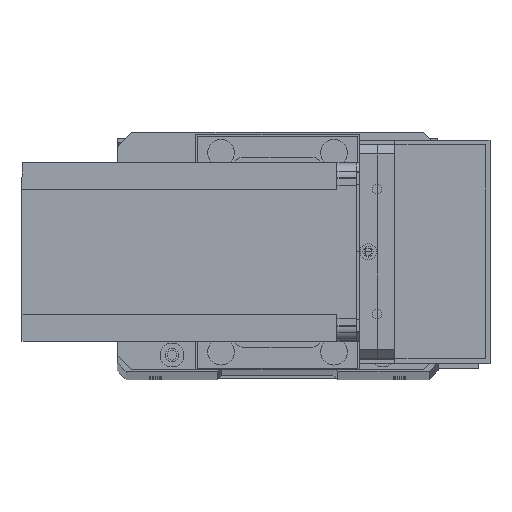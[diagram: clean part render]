
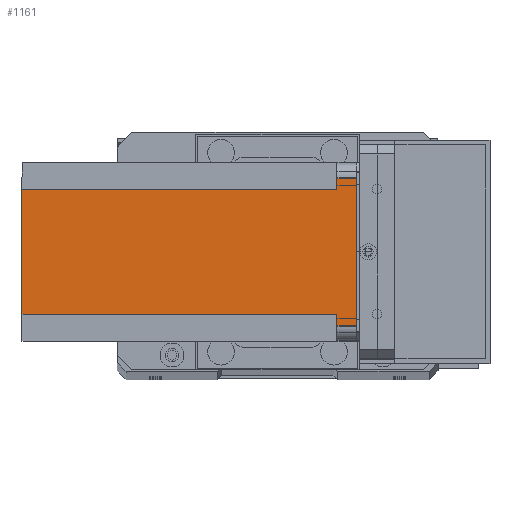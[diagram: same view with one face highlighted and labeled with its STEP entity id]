
A CAD part, top view. The second image highlights one B-rep face of the part: STEP entity #1161.
In plain terms, the highlighted planar face has unit normal (0, 0, 1) as drawn and (1, 0, 0) by its records, which use the part's own axes.
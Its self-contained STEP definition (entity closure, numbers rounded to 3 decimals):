
#263 = VECTOR ( 'NONE', #18412, 1000. ) ;
#317 = DIRECTION ( 'NONE',  ( 0., 0., -1. ) ) ;
#457 = VERTEX_POINT ( 'NONE', #5926 ) ;
#571 = VERTEX_POINT ( 'NONE', #18770 ) ;
#1040 = LINE ( 'NONE', #28239, #263 ) ;
#1161 = ADVANCED_FACE ( 'NONE', ( #13507 ), #14462, .T. ) ;
#1623 = LINE ( 'NONE', #3838, #8167 ) ;
#3256 = CARTESIAN_POINT ( 'NONE',  ( 60., 0., -6.5 ) ) ;
#3838 = CARTESIAN_POINT ( 'NONE',  ( 60., 0., -112.5 ) ) ;
#3859 = ORIENTED_EDGE ( 'NONE', *, *, #30496, .T. ) ;
#5535 = CARTESIAN_POINT ( 'NONE',  ( 60., 9., -6.5 ) ) ;
#5699 = VECTOR ( 'NONE', #29413, 1000. ) ;
#5708 = DIRECTION ( 'NONE',  ( 0., -1., 0. ) ) ;
#5926 = CARTESIAN_POINT ( 'NONE',  ( 60., 5., -6.5 ) ) ;
#6035 = EDGE_CURVE ( 'NONE', #27380, #11316, #19549, .T. ) ;
#6162 = EDGE_CURVE ( 'NONE', #571, #31804, #9903, .T. ) ;
#6300 = ORIENTED_EDGE ( 'NONE', *, *, #6162, .F. ) ;
#7431 = VERTEX_POINT ( 'NONE', #29124 ) ;
#8122 = EDGE_CURVE ( 'NONE', #11316, #7431, #25426, .T. ) ;
#8167 = VECTOR ( 'NONE', #11211, 1000. ) ;
#9648 = ORIENTED_EDGE ( 'NONE', *, *, #8122, .F. ) ;
#9903 = LINE ( 'NONE', #28953, #22240 ) ;
#9926 = DIRECTION ( 'NONE',  ( 0., 1., 0. ) ) ;
#10061 = VECTOR ( 'NONE', #5708, 1000. ) ;
#10722 = ORIENTED_EDGE ( 'NONE', *, *, #18747, .F. ) ;
#11211 = DIRECTION ( 'NONE',  ( 0., 1., 0. ) ) ;
#11316 = VERTEX_POINT ( 'NONE', #28946 ) ;
#12462 = VECTOR ( 'NONE', #9926, 1000. ) ;
#13015 = VECTOR ( 'NONE', #23449, 1000. ) ;
#13171 = LINE ( 'NONE', #29843, #18928 ) ;
#13507 = FACE_OUTER_BOUND ( 'NONE', #26702, .T. ) ;
#13549 = CARTESIAN_POINT ( 'NONE',  ( 60., 60., -6.5 ) ) ;
#14462 = PLANE ( 'NONE',  #25810 ) ;
#15098 = ORIENTED_EDGE ( 'NONE', *, *, #22863, .T. ) ;
#16610 = LINE ( 'NONE', #3256, #10061 ) ;
#16643 = DIRECTION ( 'NONE',  ( 0., 0., 1. ) ) ;
#16916 = DIRECTION ( 'NONE',  ( 0., 1., 0. ) ) ;
#18412 = DIRECTION ( 'NONE',  ( 0., 0., 1. ) ) ;
#18747 = EDGE_CURVE ( 'NONE', #31804, #457, #16610, .T. ) ;
#18770 = CARTESIAN_POINT ( 'NONE',  ( 60., 9., -112.5 ) ) ;
#18928 = VECTOR ( 'NONE', #317, 1000. ) ;
#19279 = DIRECTION ( 'NONE',  ( 1., 0., 0. ) ) ;
#19549 = LINE ( 'NONE', #13549, #13015 ) ;
#20143 = VERTEX_POINT ( 'NONE', #23831 ) ;
#22028 = EDGE_CURVE ( 'NONE', #20143, #23673, #29815, .T. ) ;
#22240 = VECTOR ( 'NONE', #16643, 1000. ) ;
#22338 = EDGE_CURVE ( 'NONE', #571, #7431, #1623, .T. ) ;
#22863 = EDGE_CURVE ( 'NONE', #20143, #457, #13171, .T. ) ;
#23449 = DIRECTION ( 'NONE',  ( 0., -1., 0. ) ) ;
#23673 = VERTEX_POINT ( 'NONE', #28495 ) ;
#23831 = CARTESIAN_POINT ( 'NONE',  ( 60., 5., 0. ) ) ;
#24693 = CARTESIAN_POINT ( 'NONE',  ( 60., 0., 0. ) ) ;
#25121 = CARTESIAN_POINT ( 'NONE',  ( 60., 55., -6.5 ) ) ;
#25426 = LINE ( 'NONE', #26925, #5699 ) ;
#25810 = AXIS2_PLACEMENT_3D ( 'NONE', #26747, #19279, #16916 ) ;
#26702 = EDGE_LOOP ( 'NONE', ( #31587, #3859, #28739, #15098, #10722, #6300, #28074, #9648 ) ) ;
#26747 = CARTESIAN_POINT ( 'NONE',  ( 60., 0., -112.5 ) ) ;
#26925 = CARTESIAN_POINT ( 'NONE',  ( 60., 51., -112.5 ) ) ;
#27380 = VERTEX_POINT ( 'NONE', #25121 ) ;
#28074 = ORIENTED_EDGE ( 'NONE', *, *, #22338, .T. ) ;
#28239 = CARTESIAN_POINT ( 'NONE',  ( 60., 55., -112.5 ) ) ;
#28495 = CARTESIAN_POINT ( 'NONE',  ( 60., 55., 0. ) ) ;
#28739 = ORIENTED_EDGE ( 'NONE', *, *, #22028, .F. ) ;
#28946 = CARTESIAN_POINT ( 'NONE',  ( 60., 51., -6.5 ) ) ;
#28953 = CARTESIAN_POINT ( 'NONE',  ( 60., 9., -112.5 ) ) ;
#29124 = CARTESIAN_POINT ( 'NONE',  ( 60., 51., -112.5 ) ) ;
#29413 = DIRECTION ( 'NONE',  ( 0., 0., -1. ) ) ;
#29815 = LINE ( 'NONE', #24693, #12462 ) ;
#29843 = CARTESIAN_POINT ( 'NONE',  ( 60., 5., -112.5 ) ) ;
#30496 = EDGE_CURVE ( 'NONE', #27380, #23673, #1040, .T. ) ;
#31587 = ORIENTED_EDGE ( 'NONE', *, *, #6035, .F. ) ;
#31804 = VERTEX_POINT ( 'NONE', #5535 ) ;
